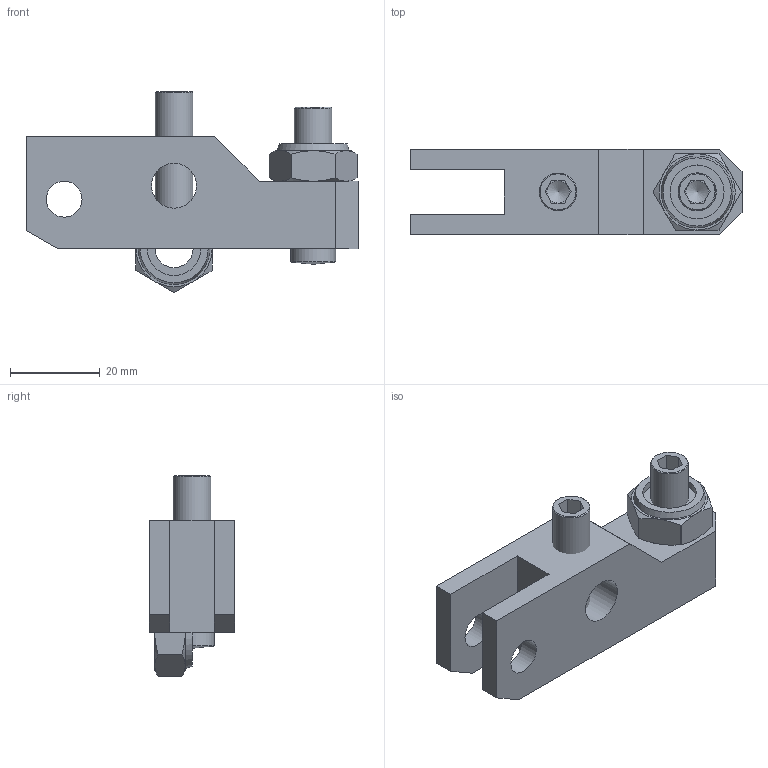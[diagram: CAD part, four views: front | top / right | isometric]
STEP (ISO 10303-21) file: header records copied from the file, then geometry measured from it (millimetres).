
FILE_DESCRIPTION( ( '' ), '1' );
FILE_NAME( 'W:/Catalogue/JL5H/JL5H42_ClampArm/JL5H42_ClampArm.stp', '2008-05-26T02:06:58', ( '機械事業部産業機器グループ' ), ( '豊和工業株式会社' ), 'XStep 1.0', ' ', ' ' );
FILE_SCHEMA( ( 'CONFIG_CONTROL_DESIGN' ) );
Length unit declared in the file: millimetre
Products named in the file (4): Assem1; 1; 2; 3
Bounding box: 74 x 19 x 44.8 mm (x, y, z)
Volume: 49441.2 mm3; surface area: 20489.8 mm2
Topology: 6 solids, 6 shells, 146 faces, 346 edges, 218 vertices
Faces by surface type: plane 82, cylinder 32, cone 30, sphere 2
Full cylindrical faces by diameter (mm): 5 x2, 8 x4, 8.376 x2, 8.5 x4, 10 x4, 10.5 x2, 12 x2
Entity records: 2268 total; most frequent: CARTESIAN_POINT 472, DIRECTION 336, ORIENTED_EDGE 308, EDGE_CURVE 154, AXIS2_PLACEMENT_3D 129, VERTEX_POINT 105, EDGE_LOOP 100, FACE_OUTER_BOUND 83
